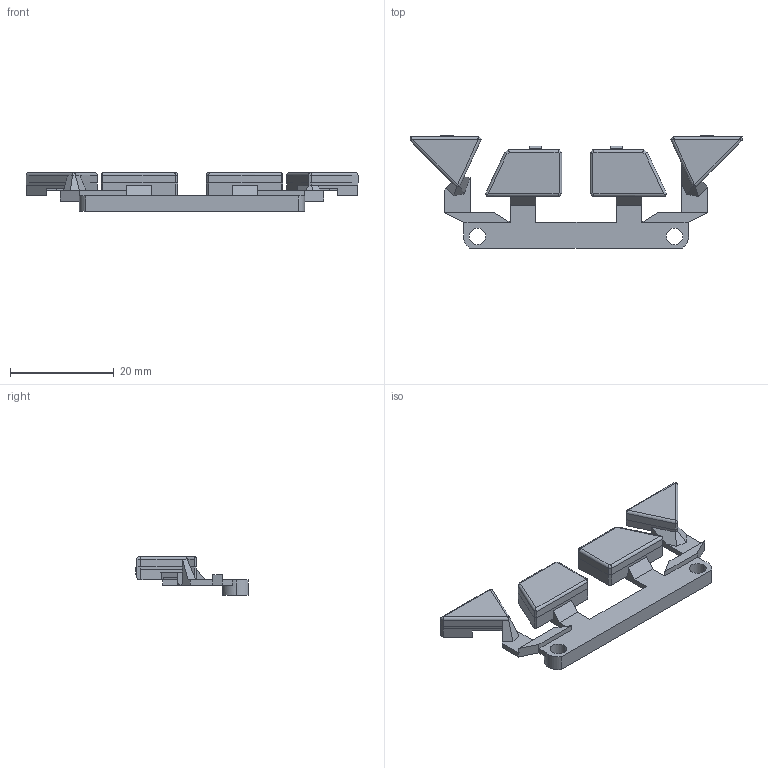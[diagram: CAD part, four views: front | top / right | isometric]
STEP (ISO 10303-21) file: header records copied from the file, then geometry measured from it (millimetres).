
FILE_DESCRIPTION (( 'STEP AP214' ), '1' );
FILE_NAME ('Buttom pusher10.2.STEP', '2021-08-30T12:01:51', ( '' ), ( '' ), 'SwSTEP 2.0', 'SolidWorks 2019', '' );
FILE_SCHEMA (( 'AUTOMOTIVE_DESIGN' ));
Length unit declared in the file: millimetre
Products named in the file (1): Buttom pusher10.2
Bounding box: 64 x 21.66 x 7.5 mm (x, y, z)
Volume: 1556.7 mm3; surface area: 2980.7 mm2
Topology: 1 solids, 1 shells, 237 faces, 626 edges, 391 vertices
Faces by surface type: plane 194, cylinder 41, bspline 2
Entity records: 7156 total; most frequent: CARTESIAN_POINT 1433, ORIENTED_EDGE 1252, DIRECTION 1068, EDGE_CURVE 626, VECTOR 556, LINE 556, VERTEX_POINT 391, AXIS2_PLACEMENT_3D 256
